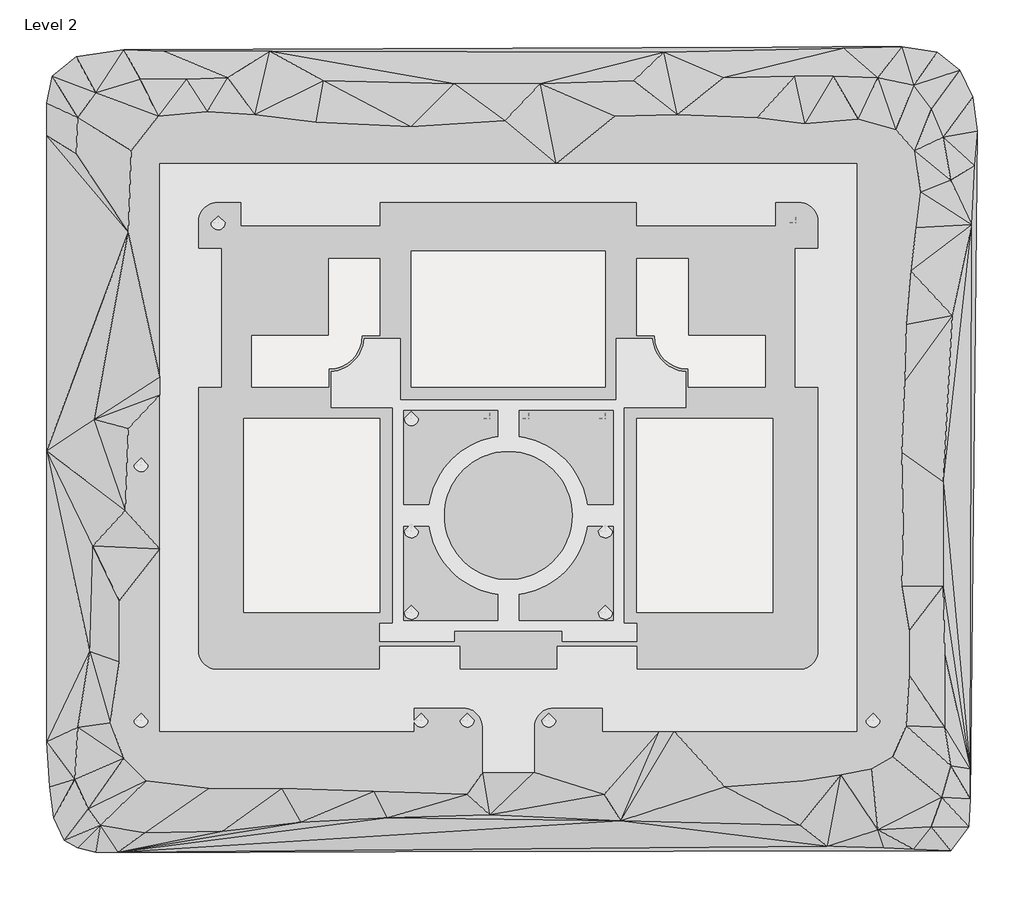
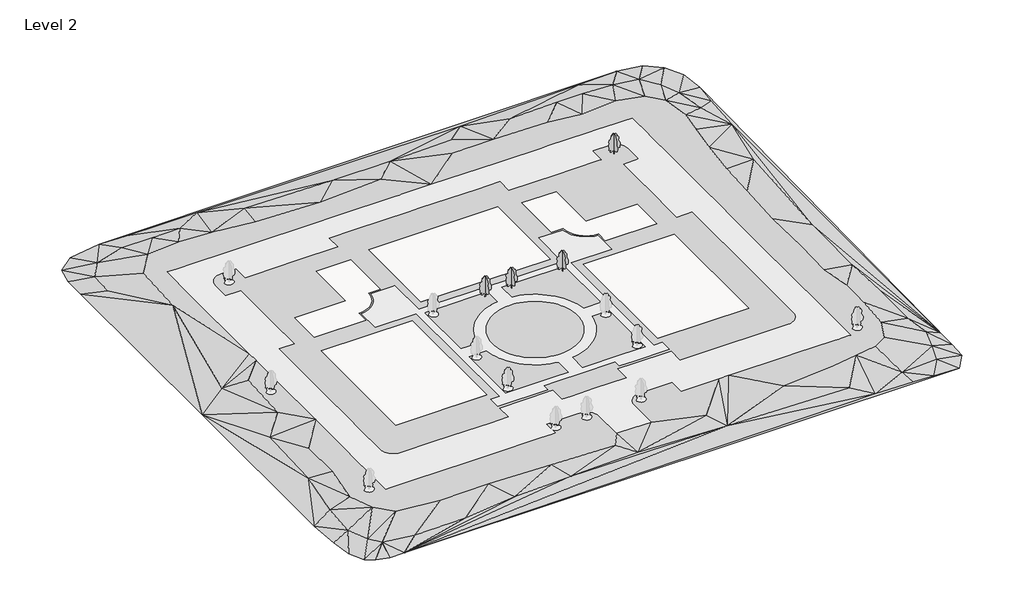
# One storey, part 2 of 2: 4 geographic elements, 1 proxy.
"""IFC4 building model written with IfcOpenShell, lengths in millimetres."""

from ifc_helpers import new_model, si_unit, origin, place, context, project, spatial, triangles, transform, mapped, element, save
from components import rpc_tree_deciduous_red_ash_25_14781bec

model = new_model("IFC4")

# Units and contexts
model_context = context("Model", 3, world=origin())
ifc_project = project(units=[si_unit("LENGTHUNIT", "METRE", prefix="MILLI")], contexts=[model_context])

# Site, building, storey
site = spatial("IfcSite", under=ifc_project)
building = spatial("IfcBuilding", under=site)
storey = spatial("IfcBuildingStorey", under=building, Name="Level 2", Elevation=3047.9999999)

# Proxy
placement = place(None, origin())
element("IfcBuildingElementProxy", 1, Name="Building Element Proxy", at=placement, inside=storey, context=model_context, shape_type="Tessellation", body=[
    triangles([(-199970.6219238, -770.6450392, 0.0), (-199970.6219238, -75600.9481934, 0.0), (-199970.6219238, -144783.6834961, 0.0), (-199264.6743164, -155372.8790039, 0.0), (-198205.762207, -162785.3195801, 0.0), (-195734.9362793, -168079.917334, 0.0), (-192558.1813477, -169844.7770508, 0.0), (-188322.5143066, -170903.6891602, 0.0), (-183027.9165527, -170903.6891602, 0.0), (14637.0472687, -170550.7246582, 0.0), (18872.7247742, -164903.1624023, 0.0), (19225.6974152, -158196.6694336, 0.0), (20990.5629456, 288.2743554, 0.0), (19931.6438599, 8406.6566345, 0.0), (16754.8854401, 14760.1734741, 0.0), (11460.2888489, 18995.8509796, 0.0), (2988.9332565, 20407.7427063, 0.0), (-181616.0213379, 19701.7974243, 0.0), (-192911.1644531, 17936.9307312, 0.0), (-198558.726709, 13348.2805847, 0.0), (-199970.6219238, 6994.7637451, 0.0), (-96458.3541504, -141259.5265137, 3048.0), (-96504.8908447, -140608.8592529, 3048.0), (-96643.5521484, -139971.4376953, 3048.0), (-96871.5196289, -139360.2470947, 3048.0), (-97184.1424072, -138787.7145996, 3048.0), (-97575.0673828, -138265.4953125, 3048.0), (-98036.332251, -137804.2304443, 3048.0), (-98558.5515381, -137413.3147705, 3048.0), (-98978.0329102, -137184.2496826, 3048.0), (-99131.0840332, -137100.6826904, 3048.0), (-99742.2746338, -136872.7245117, 3048.0), (-100379.6961914, -136734.0539063, 3048.0), (-101030.3541504, -136687.5265137, 3048.0), (-101809.9809814, -136687.5265137, 3048.0), (-112765.1541504, -136687.5265137, 3048.0), (-112765.1541504, -142173.9265137, 3048.0), (-113948.1331055, -142173.9265137, 3048.0), (-118098.4844238, -142173.9265137, 3048.0), (-134914.7603027, -142173.9265137, 3048.0), (-141364.1619873, -142173.9265137, 3048.0), (-155924.3616211, -142173.9265137, 3048.0), (-161579.2164551, -142173.9265137, 3048.0), (-171062.6189941, -142173.9265137, 3048.0), (-173115.5541504, -142173.9265137, 3048.0), (-173115.5541504, -139265.5924072, 3048.0), (-173115.5541504, -133177.6942383, 3048.0), (-173115.5541504, -122301.5302002, 3048.0), (-173115.5541504, -118406.8004883, 3048.0), (-173115.5541504, -98940.6863525, 3048.0), (-173115.5541504, -96485.831543, 3048.0), (-173115.5541504, -78335.3859375, 3048.0), (-173115.5541504, -62355.6543457, 3048.0), (-173115.5541504, -58140.023291, 3048.0), (-173115.5541504, -19343.470459, 3048.0), (-173115.5541504, -16797.6432953, 3048.0), (-173115.5541504, -12340.9792786, 3048.0), (-173115.5541504, -7452.3218628, 3048.0), (-169916.8098633, -7452.3218628, 3048.0), (-163060.4655762, -7452.3218628, 3048.0), (-152868.4644287, -7452.3218628, 3048.0), (-142112.3953857, -7452.3218628, 3048.0), (-121728.1977539, -7452.3218628, 3048.0), (-112747.4808105, -7452.3218628, 3048.0), (-91818.4420166, -7452.3218628, 3048.0), (-90362.3541504, -7452.3218628, 3048.0), (-89744.5965088, -7452.3218628, 3048.0), (-79028.6831543, -7452.3218628, 3048.0), (-55510.2210205, -7452.3218628, 3048.0), (-52788.1732178, -7452.3218628, 3048.0), (-40375.0099731, -7452.3218628, 3048.0), (-37615.0575073, -7452.3218628, 3048.0), (-23395.2487244, -7452.3218628, 3048.0), (-20332.1054626, -7452.3218628, 3048.0), (-13137.2725342, -7452.3218628, 3048.0), (-9769.8966797, -7452.3218628, 3048.0), (-7609.1582199, -7452.3218628, 3048.0), (-7609.1582199, -9469.011557, 3048.0), (-7609.1582199, -15160.5374084, 3048.0), (-7609.1582199, -20175.2708496, 3048.0), (-7609.1582199, -29394.9894836, 3048.0), (-7609.1582199, -34925.2565735, 3048.0), (-7609.1582199, -45786.2285156, 3048.0), (-7609.1582199, -48692.6557617, 3048.0), (-7609.1582199, -63543.7213623, 3048.0), (-7609.1582199, -67102.3320557, 3048.0), (-7609.1582199, -88141.7269043, 3048.0), (-7609.1582199, -103111.0178467, 3048.0), (-7609.1582199, -109311.1696289, 3048.0), (-7609.1582199, -119744.5513916, 3048.0), (-7609.1582199, -128757.108252, 3048.0), (-7609.1582199, -135897.4445068, 3048.0), (-7609.1582199, -141262.8472412, 3048.0), (-7609.1582199, -142173.9265137, 3048.0), (-8520.228772, -142173.9265137, 3048.0), (-12021.3371613, -142173.9265137, 3048.0), (-14368.7717834, -142173.9265137, 3048.0), (-27380.2333923, -142173.9265137, 3048.0), (-30015.5818359, -142173.9265137, 3048.0), (-50988.4086548, -142173.9265137, 3048.0), (-54593.6723145, -142173.9265137, 3048.0), (-67959.5588013, -142173.9265137, 3048.0), (-67959.5588013, -136687.5265137, 3048.0), (-70630.3399658, -136687.5265137, 3048.0), (-79694.3541504, -136687.5265137, 3048.0), (-80345.0214111, -136734.0539063, 3048.0), (-80982.4429688, -136872.7245117, 3048.0), (-81593.6335693, -137100.6826904, 3048.0), (-82166.1660645, -137413.3147705, 3048.0), (-82688.3853516, -137804.2304443, 3048.0), (-83149.640918, -138265.4953125, 3048.0), (-83540.5658936, -138787.7145996, 3048.0), (-83853.1979736, -139360.2470947, 3048.0), (-84081.1561523, -139971.4376953, 3048.0), (-84219.8174561, -140608.8592529, 3048.0), (-84266.3541504, -141259.5265137, 3048.0), (-84266.3541504, -151927.5265137, 3048.0), (-90362.3541504, -151927.5265137, 3048.0), (-96458.3541504, -151927.5265137, 3048.0), (-153151.1541504, -67955.1218628, 3048.0), (-153151.1541504, -99875.92229, 3048.0), (-153151.1541504, -113064.9684082, 3048.0), (-153151.1541504, -113979.9265137, 3048.0), (-152049.379541, -113979.9265137, 3048.0), (-140079.1613525, -113979.9265137, 3048.0), (-120842.3541504, -113979.9265137, 3048.0), (-120842.3541504, -67955.1218628, 3048.0), (-67349.9588013, -28178.7218628, 3048.0), (-86679.0999023, -28178.7218628, 3048.0), (-92962.2791748, -28178.7218628, 3048.0), (-110993.3460205, -28178.7218628, 3048.0), (-113374.7541504, -28178.7218628, 3048.0), (-113374.7541504, -60487.5218628, 3048.0), (-108258.9733887, -60487.5218628, 3048.0), (-94745.3238281, -60487.5218628, 3048.0), (-81900.5357666, -60487.5218628, 3048.0), (-67349.9588013, -60487.5218628, 3048.0), (-27573.5588013, -113979.9265137, 3048.0), (-27573.5588013, -111100.790625, 3048.0), (-27573.5588013, -67955.1218628, 3048.0), (-59882.3588013, -67955.1218628, 3048.0), (-59882.3588013, -113979.9265137, 3048.0), (-30077.1524963, -113979.9265137, 3048.0), (-120842.3541504, -30007.5218628, 3048.0), (-133034.3541504, -30007.5218628, 3048.0), (-133034.3541504, -48295.5218628, 3048.0), (-151322.3541504, -48295.5218628, 3048.0), (-151322.3541504, -60487.5218628, 3048.0), (-133034.3541504, -60487.5218628, 3048.0), (-133034.3541504, -56220.3218628, 3048.0), (-132147.0594727, -56170.4923462, 3048.0), (-131270.9269043, -56021.631665, 3048.0), (-130416.9604248, -55775.6094727, 3048.0), (-129595.9128662, -55435.5186035, 3048.0), (-128818.1091797, -55005.6425171, 3048.0), (-128093.3255127, -54491.3808838, 3048.0), (-127430.6775879, -53899.2030762, 3048.0), (-126838.4997803, -53236.5551514, 3048.0), (-126324.2334961, -52511.7714844, 3048.0), (-125894.3620605, -51733.963147, 3048.0), (-125554.2711914, -50912.9155884, 3048.0), (-125308.248999, -50058.9537598, 3048.0), (-125159.383667, -49182.8165405, 3048.0), (-125109.5541504, -48295.5218628, 3048.0), (-120842.3541504, -48295.5218628, 3048.0), (-59882.3588013, -30007.5218628, 3048.0), (-59882.3588013, -48295.5218628, 3048.0), (-55615.1588013, -48295.5218628, 3048.0), (-55565.3292847, -49182.8165405, 3048.0), (-55416.4686035, -50058.9537598, 3048.0), (-55170.4464111, -50912.9155884, 3048.0), (-54830.355542, -51733.963147, 3048.0), (-54400.4794556, -52511.7714844, 3048.0), (-53886.2178223, -53236.5551514, 3048.0), (-53294.0400146, -53899.2030762, 3048.0), (-52631.3920898, -54491.3808838, 3048.0), (-51906.603772, -55005.6425171, 3048.0), (-51128.8000854, -55435.5186035, 3048.0), (-50307.7525269, -55775.6094727, 3048.0), (-49453.7906982, -56021.631665, 3048.0), (-48577.653479, -56170.4923462, 3048.0), (-47690.3588013, -56220.3218628, 3048.0), (-47690.3588013, -60487.5218628, 3048.0), (-29402.3588013, -60487.5218628, 3048.0), (-29402.3588013, -48900.5221436, 3048.0), (-29402.3588013, -48295.5218628, 3048.0), (-30126.7308655, -48295.5218628, 3048.0), (-47690.3588013, -48295.5218628, 3048.0), (-47690.3588013, -33626.2753967, 3048.0), (-47690.3588013, -30007.5218628, 3048.0), (-52023.1268921, -30007.5218628, 3048.0), (-120842.3541504, -16596.3218628, 3048.0), (-120842.3541504, -22082.7218628, 3048.0), (-135421.6781982, -22082.7218628, 3048.0), (-151061.086377, -22082.7218628, 3048.0), (-153760.7541504, -22082.7218628, 3048.0), (-153760.7541504, -16596.3218628, 3048.0), (-159399.5541504, -16596.3218628, 3048.0), (-160050.2307129, -16642.8585571, 3048.0), (-160687.6429688, -16781.5198608, 3048.0), (-161298.8428711, -17009.4838531, 3048.0), (-161871.3660645, -17322.1112823, 3048.0), (-162393.5853516, -17713.0350952, 3048.0), (-162854.840918, -18174.2988007, 3048.0), (-163245.7751953, -18696.5122742, 3048.0), (-163558.3886719, -19269.0447693, 3048.0), (-163786.3561523, -19880.2400208, 3048.0), (-163925.0267578, -20517.6592529, 3048.0), (-163971.5541504, -21168.3218628, 3048.0), (-163971.5541504, -27569.1218628, 3048.0), (-158485.1541504, -27569.1218628, 3048.0), (-158485.1541504, -34220.483313, 3048.0), (-158485.1541504, -46724.2270752, 3048.0), (-158485.1541504, -60487.5218628, 3048.0), (-163971.5541504, -60487.5218628, 3048.0), (-163971.5541504, -88201.2767578, 3048.0), (-163971.5541504, -104079.330835, 3048.0), (-163971.5541504, -109289.2825928, 3048.0), (-163971.5541504, -122971.5265137, 3048.0), (-163925.0267578, -123622.1844727, 3048.0), (-163786.3561523, -124259.6060303, 3048.0), (-163558.3886719, -124870.7966309, 3048.0), (-163245.7751953, -125443.329126, 3048.0), (-162854.840918, -125965.5484131, 3048.0), (-162393.5853516, -126426.8132813, 3048.0), (-161871.3660645, -126817.7289551, 3048.0), (-161298.8428711, -127130.3610352, 3048.0), (-160687.6429688, -127358.3192139, 3048.0), (-160050.2307129, -127496.9898193, 3048.0), (-159399.5541504, -127543.5265137, 3048.0), (-147842.1479736, -127543.5265137, 3048.0), (-135716.2462646, -127543.5265137, 3048.0), (-127508.0124023, -127543.5265137, 3048.0), (-120842.3541504, -127543.5265137, 3048.0), (-120842.3541504, -122057.1265137, 3048.0), (-103048.1844727, -122057.1265137, 3048.0), (-101944.7541504, -122057.1265137, 3048.0), (-101944.7541504, -127543.5265137, 3048.0), (-98445.9909668, -127543.5265137, 3048.0), (-90362.3541504, -127543.5265137, 3048.0), (-78779.9541504, -127543.5265137, 3048.0), (-78779.9541504, -122057.1265137, 3048.0), (-72794.2171875, -122057.1265137, 3048.0), (-59882.3588013, -122057.1265137, 3048.0), (-59882.3588013, -127543.5265137, 3048.0), (-41871.5883911, -127543.5265137, 3048.0), (-34741.3910522, -127543.5265137, 3048.0), (-21325.1588013, -127543.5265137, 3048.0), (-20674.493866, -127496.9898193, 3048.0), (-20037.0769592, -127358.3192139, 3048.0), (-19872.0754028, -127296.7787842, 3048.0), (-19425.880545, -127130.3610352, 3048.0), (-18853.3480499, -126817.7289551, 3048.0), (-18331.1345764, -126426.8132813, 3048.0), (-17869.870871, -125965.5484131, 3048.0), (-17478.9470581, -125443.329126, 3048.0), (-17166.3207916, -124870.7966309, 3048.0), (-16938.3556366, -124259.6060303, 3048.0), (-16799.6943329, -123622.1844727, 3048.0), (-16753.1576385, -122971.5265137, 3048.0), (-16753.1576385, -122722.3696289, 3048.0), (-16753.1576385, -111345.1664063, 3048.0), (-16753.1576385, -98657.3269043, 3048.0), (-16753.1576385, -60487.5218628, 3048.0), (-22239.5588013, -60487.5218628, 3048.0), (-22239.5588013, -54882.9383789, 3048.0), (-22239.5588013, -46411.753125, 3048.0), (-22239.5588013, -35337.7267456, 3048.0), (-22239.5588013, -28669.615155, 3048.0), (-22239.5588013, -27569.1218628, 3048.0), (-16753.1576385, -27569.1218628, 3048.0), (-16753.1576385, -26553.1513184, 3048.0), (-16753.1576385, -21168.3218628, 3048.0), (-16799.6943329, -20517.6592529, 3048.0), (-16938.3556366, -19880.2400208, 3048.0), (-17166.3207916, -19269.0447693, 3048.0), (-17478.9470581, -18696.5122742, 3048.0), (-17869.870871, -18174.2988007, 3048.0), (-18331.1345764, -17713.0350952, 3048.0), (-18853.3480499, -17322.1112823, 3048.0), (-19425.880545, -17009.4838531, 3048.0), (-20037.0769592, -16781.5198608, 3048.0), (-20674.493866, -16642.8585571, 3048.0), (-21325.1588013, -16596.3218628, 3048.0), (-26963.9588013, -16596.3218628, 3048.0), (-26963.9588013, -17204.3033569, 3048.0), (-26963.9588013, -22082.7218628, 3048.0), (-27869.6965393, -22082.7218628, 3048.0), (-36760.488739, -22082.7218628, 3048.0), (-43016.1185303, -22082.7218628, 3048.0), (-59882.3588013, -22082.7218628, 3048.0), (-59882.3588013, -16596.3218628, 3048.0), (-68080.4816528, -16596.3218628, 3048.0), (-88392.1767334, -16596.3218628, 3048.0), (-92323.0716797, -16596.3218628, 3048.0), (-111973.5931641, -16596.3218628, 3048.0), (-115965.5541504, -63535.5218628, 3048.0), (-108001.017041, -63535.5218628, 3048.0), (-94913.5368164, -63535.5218628, 3048.0), (-81449.735376, -63535.5218628, 3048.0), (-64759.1588013, -63535.5218628, 3048.0), (-64759.1588013, -48905.1218628, 3048.0), (-56202.9601318, -48905.1218628, 3048.0), (-56096.6642944, -49768.622644, 3048.0), (-55903.0063477, -50616.8173828, 3048.0), (-55624.0001221, -51440.8880127, 3048.0), (-55262.5431152, -52232.2676147, 3048.0), (-54822.3978882, -52982.7380859, 3048.0), (-54308.131604, -53684.4999023, 3048.0), (-53725.0881226, -54330.255835, 3048.0), (-53079.3368408, -54913.2946655, 3048.0), (-52377.5750244, -55427.5609497, 3048.0), (-51627.1045532, -55867.7061768, 3048.0), (-50835.7249512, -56229.1631836, 3048.0), (-50011.6543213, -56508.1694092, 3048.0), (-49163.4595825, -56701.827356, 3048.0), (-48299.9588013, -56808.1231934, 3048.0), (-48299.9588013, -65364.3218628, 3048.0), (-62930.3588013, -65364.3218628, 3048.0), (-62930.3588013, -116570.7265137, 3048.0), (-59882.3588013, -116570.7265137, 3048.0), (-59882.3588013, -120837.9265137, 3048.0), (-72974.5410645, -120837.9265137, 3048.0), (-77560.7588013, -120837.9265137, 3048.0), (-77560.7588013, -118399.5265137, 3048.0), (-90362.3541504, -118399.5265137, 3048.0), (-97941.352002, -118399.5265137, 3048.0), (-103163.9541504, -118399.5265137, 3048.0), (-103163.9541504, -120689.163501, 3048.0), (-103163.9541504, -120837.9265137, 3048.0), (-120842.3541504, -120837.9265137, 3048.0), (-120842.3541504, -116570.7265137, 3048.0), (-117794.3541504, -116570.7265137, 3048.0), (-117794.3541504, -65364.3218628, 3048.0), (-132424.7541504, -65364.3218628, 3048.0), (-132424.7541504, -56808.1231934, 3048.0), (-131561.2533691, -56701.827356, 3048.0), (-130713.0632813, -56508.1694092, 3048.0), (-129888.9926514, -56229.1631836, 3048.0), (-129097.6083984, -55867.7061768, 3048.0), (-128347.1425781, -55427.5609497, 3048.0), (-127645.3807617, -54913.2946655, 3048.0), (-126999.6248291, -54330.255835, 3048.0), (-126416.5813477, -53684.4999023, 3048.0), (-125902.3150635, -52982.7380859, 3048.0), (-125462.1744873, -52232.2676147, 3048.0), (-125100.7174805, -51440.8880127, 3048.0), (-124821.7112549, -50616.8173828, 3048.0), (-124628.057959, -49768.622644, 3048.0), (-124521.7574707, -48905.1218628, 3048.0), (-115965.5541504, -48905.1218628, 3048.0), (-92800.7541504, -65973.9218628, 3048.0), (-95048.1053467, -65973.9218628, 3048.0), (-107794.6482422, -65973.9218628, 3048.0), (-115355.9541504, -65973.9218628, 3048.0), (-115355.9541504, -88529.1265137, 3048.0), (-109101.9823975, -88529.1265137, 3048.0), (-108874.6474365, -87170.8838379, 3048.0), (-108549.0021973, -85832.807373, 3048.0), (-108126.7768066, -84522.0036621, 3048.0), (-107610.2129883, -83245.4211182, 3048.0), (-107002.0547607, -82009.8500244, 3048.0), (-106508.6988281, -81168.3851074, 3048.0), (-106305.529834, -80821.8574219, 3048.0), (-105524.3403076, -79687.7312988, 3048.0), (-104662.6254639, -78613.5177979, 3048.0), (-103724.9803711, -77604.900293, 3048.0), (-102716.3628662, -76667.2505493, 3048.0), (-101642.1493652, -75805.5403564, 3048.0), (-100508.0232422, -75024.3508301, 3048.0), (-99320.0213379, -74327.8259033, 3048.0), (-98084.4595459, -73719.6676758, 3048.0), (-96807.877002, -73203.1038574, 3048.0), (-95497.073291, -72780.8784668, 3048.0), (-95422.7708496, -72762.7958496, 3048.0), (-94158.9968262, -72455.2332275, 3048.0), (-92800.7541504, -72227.8982666, 3048.0), (-92800.7541504, -115961.1265137, 3048.0), (-92800.7541504, -109707.145459, 3048.0), (-94158.9968262, -109479.810498, 3048.0), (-95497.073291, -109154.1652588, 3048.0), (-96807.877002, -108731.9398682, 3048.0), (-97394.7156006, -108494.475293, 3048.0), (-98084.4595459, -108215.3760498, 3048.0), (-99320.0213379, -107607.2178223, 3048.0), (-100508.0232422, -106910.6928955, 3048.0), (-101642.1493652, -106129.5033691, 3048.0), (-102716.3628662, -105267.7978271, 3048.0), (-103724.9803711, -104330.1434326, 3048.0), (-104630.9436768, -103355.6168701, 3048.0), (-104662.6254639, -103321.5259277, 3048.0), (-105524.3403076, -102247.3124268, 3048.0), (-106305.529834, -101113.1863037, 3048.0), (-107002.0547607, -99925.1937012, 3048.0), (-107610.2129883, -98689.6226074, 3048.0), (-108126.7768066, -97413.0400635, 3048.0), (-108549.0021973, -96102.2363525, 3048.0), (-108874.6474365, -94764.1598877, 3048.0), (-109101.9823975, -93405.9265137, 3048.0), (-115355.9541504, -93405.9265137, 3048.0), (-115355.9541504, -115961.1265137, 3048.0), (-103564.1064697, -115961.1265137, 3048.0), (-97806.7834717, -115961.1265137, 3048.0), (-105602.3541504, -90967.5265137, 3048.0), (-105552.9432129, -92193.8330566, 3048.0), (-105405.0080566, -93412.1865967, 3048.0), (-105159.5067627, -94614.6899414, 3048.0), (-104818.0578369, -95793.538916, 3048.0), (-104382.8471924, -96941.0967773, 3048.0), (-103856.7118652, -98049.9035156, 3048.0), (-103243.0562988, -99112.7781738, 3048.0), (-102545.8616455, -100122.8374512, 3048.0), (-101769.6578613, -101073.5143066, 3048.0), (-100919.4771973, -101958.6509766, 3048.0), (-100000.8262939, -102772.4989746, 3048.0), (-99019.6675781, -103509.7935059, 3048.0), (-97982.3541504, -104165.7534668, 3048.0), (-97179.0915527, -104587.3370361, 3048.0), (-96895.6297852, -104736.1093506, 3048.0), (-95766.5359131, -105217.1683594, 3048.0), (-94602.3930176, -105605.8144043, 3048.0), (-93410.754126, -105899.5360107, 3048.0), (-92199.3396973, -106096.4077148, 3048.0), (-90976.0097168, -106195.1644775, 3048.0), (-89748.7078857, -106195.1644775, 3048.0), (-88525.3779053, -106096.4077148, 3048.0), (-87313.9634766, -105899.5360107, 3048.0), (-86122.324585, -105605.8144043, 3048.0), (-84958.1816895, -105217.1683594, 3048.0), (-83829.0878174, -104736.1093506, 3048.0), (-82742.3541504, -104165.7534668, 3048.0), (-81705.0500244, -103509.7935059, 3048.0), (-80723.8913086, -102772.4989746, 3048.0), (-79805.2404053, -101958.6509766, 3048.0), (-78955.0504395, -101073.5143066, 3048.0), (-78178.8466553, -100122.8374512, 3048.0), (-77481.6613037, -99112.7781738, 3048.0), (-76868.0103882, -98049.9035156, 3048.0), (-76469.2486816, -97209.5362061, 3048.0), (-76341.8704102, -96941.0967773, 3048.0), (-75906.6644165, -95793.538916, 3048.0), (-75565.206189, -94614.6899414, 3048.0), (-75319.7141968, -93412.1865967, 3048.0), (-75171.7743896, -92193.8330566, 3048.0), (-75122.3588013, -90967.5265137, 3048.0), (-75171.7743896, -89741.2106689, 3048.0), (-75319.7141968, -88522.8571289, 3048.0), (-75565.206189, -87320.3537842, 3048.0), (-75906.6644165, -86141.5048096, 3048.0), (-76341.8704102, -84993.9469482, 3048.0), (-76868.0103882, -83885.14021, 3048.0), (-77481.6613037, -82822.2655518, 3048.0), (-78178.8466553, -81812.2062744, 3048.0), (-78872.1438721, -80963.076709, 3048.0), (-78955.0504395, -80861.5294189, 3048.0), (-79805.2404053, -79976.392749, 3048.0), (-80723.8913086, -79162.544751, 3048.0), (-81705.0500244, -78425.2502197, 3048.0), (-82742.3541504, -77769.2949097, 3048.0), (-83829.0878174, -77198.9390259, 3048.0), (-84958.1816895, -76717.8753662, 3048.0), (-86122.324585, -76329.2246704, 3048.0), (-87313.9634766, -76035.5123657, 3048.0), (-88525.3779053, -75838.6406616, 3048.0), (-89748.7078857, -75739.879248, 3048.0), (-90976.0097168, -75739.879248, 3048.0), (-92199.3396973, -75838.6406616, 3048.0), (-93410.754126, -76035.5123657, 3048.0), (-94602.3930176, -76329.2246704, 3048.0), (-95638.683252, -76675.1895996, 3048.0), (-95766.5359131, -76717.8753662, 3048.0), (-96895.6297852, -77198.9390259, 3048.0), (-97982.3541504, -77769.2949097, 3048.0), (-99019.6675781, -78425.2502197, 3048.0), (-100000.8262939, -79162.544751, 3048.0), (-100919.4771973, -79976.392749, 3048.0), (-101769.6578613, -80861.5294189, 3048.0), (-102545.8616455, -81812.2062744, 3048.0), (-103243.0562988, -82822.2655518, 3048.0), (-103856.7118652, -83885.14021, 3048.0), (-104382.8471924, -84993.9469482, 3048.0), (-104818.0578369, -86141.5048096, 3048.0), (-105159.5067627, -87320.3537842, 3048.0), (-105405.0080566, -88522.8571289, 3048.0), (-105552.9432129, -89741.2106689, 3048.0), (-87923.9541504, -65973.9218628, 3048.0), (-87923.9541504, -72227.8982666, 3048.0), (-86565.7207764, -72455.2332275, 3048.0), (-85227.6443115, -72780.8784668, 3048.0), (-83916.8406006, -73203.1038574, 3048.0), (-82640.2580566, -73719.6676758, 3048.0), (-81404.6869629, -74327.8259033, 3048.0), (-80216.6943604, -75024.3508301, 3048.0), (-79697.6190674, -75381.8917969, 3048.0), (-79082.5682373, -75805.5403564, 3048.0), (-78008.3500854, -76667.2505493, 3048.0), (-76999.7372314, -77604.900293, 3048.0), (-76062.0874878, -78613.5177979, 3048.0), (-75200.3772949, -79687.7312988, 3048.0), (-74419.1877686, -80821.8574219, 3048.0), (-73722.6628418, -82009.8500244, 3048.0), (-73114.5046143, -83245.4211182, 3048.0), (-72597.9407959, -84522.0036621, 3048.0), (-72175.7154053, -85832.807373, 3048.0), (-71850.070166, -87170.8838379, 3048.0), (-71622.7352051, -88529.1265137, 3048.0), (-65368.7588013, -88529.1265137, 3048.0), (-65368.7588013, -65973.9218628, 3048.0), (-81089.0876221, -65973.9218628, 3048.0), (-87923.9541504, -115961.1265137, 3048.0), (-73695.8365723, -115961.1265137, 3048.0), (-65368.7588013, -115961.1265137, 3048.0), (-65368.7588013, -93405.9265137, 3048.0), (-71622.7352051, -93405.9265137, 3048.0), (-71850.070166, -94764.1598877, 3048.0), (-72175.7154053, -96102.2363525, 3048.0), (-72597.9407959, -97413.0400635, 3048.0), (-73114.5046143, -98689.6226074, 3048.0), (-73722.6628418, -99925.1937012, 3048.0), (-74419.1877686, -101113.1863037, 3048.0), (-75200.3772949, -102247.3124268, 3048.0), (-75642.6107666, -102798.599707, 3048.0), (-76062.0874878, -103321.5259277, 3048.0), (-76999.7372314, -104330.1434326, 3048.0), (-78008.3500854, -105267.7978271, 3048.0), (-79082.5682373, -106129.5033691, 3048.0), (-80216.6943604, -106910.6928955, 3048.0), (-81404.6869629, -107607.2178223, 3048.0), (-82640.2580566, -108215.3760498, 3048.0), (-83916.8406006, -108731.9398682, 3048.0), (-85227.6443115, -109154.1652588, 3048.0), (-86565.7207764, -109479.810498, 3048.0), (-87923.9541504, -109707.145459, 3048.0), (-172085.7379395, 19348.8236206, 0.0), (-147024.6536865, 19348.8236206, 0.0), (-53486.7677856, 18995.8509796, 0.0), (-10777.018927, 20054.771228, 0.0), (20284.6176636, -7830.1081055, 0.0), (19578.6700562, -21949.0323486, 0.0), (19225.6974152, -151137.2026611, 0.0), (5812.718454, -170197.7601563, 0.0), (-1246.744249, -169844.7770508, 0.0), (-14659.7237915, -169491.8125488, 0.0), (-192911.1644531, -5006.322908, 1524.0), (-192558.1813477, 3465.0326843, 1524.0), (-188322.5143066, 9465.5757202, 1524.0), (-177733.3187988, 12642.33414, 1524.0), (-166791.1401855, 12642.33414, 1524.0), (-156907.8922852, 12995.306781, 1524.0), (-134317.6153564, 12289.361499, 1524.0), (-103255.9857422, 11583.4150543, 1524.0), (-82783.542334, 11583.4150543, 1524.0), (-60546.2299072, 12289.361499, 1524.0), (-39367.8435425, 12995.306781, 1524.0), (-22425.1335205, 13348.2805847, 1524.0), (-13247.8309021, 13348.2805847, 1524.0), (-2658.6368477, 12995.306781, 1524.0), (5812.718454, 11230.4412506, 1524.0), (10048.3959595, 5582.8714371, 1524.0), (12872.1817383, -1123.6181889, 1524.0), (14637.0472687, -11359.8391663, 1524.0), (14990.0199097, -43480.3925171, 1524.0), (12872.1817383, -83013.3887695, 1524.0), (12872.1817383, -107721.5085205, 1524.0), (13225.1543793, -123958.2662842, 1524.0), (13225.1543793, -141253.9547607, 1524.0), (14637.0472687, -150431.2550537, 1524.0), (12519.2079346, -157843.6863281, 1524.0), (10048.3959595, -164903.1624023, 1524.0), (-2658.6368477, -165609.0914062, 1524.0), (-21013.2406311, -164550.1792969, 1524.0), (-63722.9894897, -163491.2671875, 1524.0), (-94784.6237549, -162079.3719727, 1524.0), (-119139.7697021, -162785.3195801, 1524.0), (-139612.2131104, -163844.2316895, 1524.0), (-158319.7875, -165962.0745117, 1524.0), (-176674.3880859, -166315.0390137, 1524.0), (-187263.5835937, -164550.1792969, 1524.0), (-190087.3740234, -160667.4767578, 1524.0), (-193264.1289551, -153608.0099854, 1524.0), (-192558.1813477, -141253.9547607, 1524.0), (-189734.390918, -123252.3279785, 1524.0), (-189028.4619141, -98191.2344238, 1524.0), (-188675.4788086, -68188.5122681, 1524.0), (-180557.090625, -23713.8990417, 3048.0), (-179851.1430176, -4300.3764633, 3048.0), (-173497.6331543, 3818.005616, 3048.0), (-161849.5255371, 4876.9249924, 3048.0), (-150554.3824219, 4170.9788383, 3048.0), (-136082.484375, 2406.1131626, 3048.0), (-113492.1981445, 1347.1937862, 3048.0), (-91254.8950195, 2759.0862396, 3048.0), (-65134.8800537, 3818.005616, 3048.0), (-50310.0082031, 4170.9788383, 3048.0), (-31249.4600098, 3465.0326843, 3048.0), (-19954.3215454, 2053.1400856, 3048.0), (-7247.2878662, 3112.059462, 3048.0), (1577.0408031, 641.2474869, 3048.0), (6165.6916763, -4300.3764633, 3048.0), (7577.5839844, -14183.6237823, 3048.0), (6518.6648987, -22654.9799561, 3048.0), (5106.7720093, -32891.2016602, 3048.0), (4047.8529236, -45598.2353394, 3048.0), (3694.8797012, -59011.2119751, 3048.0), (2988.9332565, -75953.9219971, 3048.0), (3341.9064789, -93249.6104736, 3048.0), (2988.9332565, -107721.5085205, 3048.0), (4753.7990776, -118310.7040283, 3048.0), (4753.7990776, -128899.8902344, 3048.0), (4047.8529236, -140900.980957, 3048.0), (871.0945765, -148313.4122314, 3048.0), (-4070.5294464, -151137.2026611, 3048.0), (-11482.9653717, -152549.097876, 3048.0), (-20307.2930237, -153960.9837891, 3048.0), (-39014.8697388, -155372.8790039, 3048.0), (-67605.6920288, -157137.7387207, 3048.0), (-100079.2215088, -157137.7387207, 3048.0), (-122316.5339355, -156431.7911133, 3048.0), (-144200.8632568, -155725.8528076, 3048.0), (-161496.5424316, -155725.8528076, 3048.0), (-176321.423584, -153960.9837891, 3048.0), (-181616.0213379, -148666.3860352, 3048.0), (-184792.7762695, -140195.0333496, 3048.0), (-182674.9334473, -125723.1353027, 3048.0), (-182674.9334473, -111251.2372559, 3048.0), (-181263.0382324, -89719.8724365, 3048.0), (-180557.090625, -70306.3550903, 3048.0)], [[5, 6, 579], [5, 580, 4], [578, 6, 7], [8, 9, 578], [621, 579, 578], [579, 6, 578], [577, 578, 9], [580, 5, 579], [9, 576, 577], [578, 7, 8], [577, 621, 578], [580, 622, 581], [580, 579, 622], [580, 581, 3], [581, 622, 623], [582, 581, 623], [3, 581, 582], [622, 45, 623], [580, 3, 4], [621, 44, 45], [620, 44, 621], [46, 47, 623], [623, 45, 46], [622, 621, 45], [579, 621, 622], [47, 624, 623], [621, 577, 620], [576, 575, 619], [576, 9, 575], [42, 620, 619], [619, 620, 576], [618, 40, 619], [41, 619, 40], [619, 575, 618], [576, 620, 577], [37, 618, 617], [574, 618, 575], [38, 39, 618], [37, 38, 618], [618, 574, 617], [618, 39, 40], [9, 574, 575], [43, 620, 42], [228, 229, 230], [231, 123, 230], [125, 232, 233], [231, 232, 125], [619, 41, 42], [235, 233, 234], [620, 43, 44], [574, 572, 573], [624, 625, 582], [221, 230, 220], [624, 582, 623], [225, 230, 224], [47, 48, 624], [223, 224, 230], [223, 230, 222], [230, 221, 222], [218, 219, 123], [625, 50, 583], [625, 49, 50], [50, 626, 583], [626, 50, 51], [583, 626, 2], [625, 583, 582], [49, 625, 624], [122, 217, 218], [121, 216, 217], [624, 48, 49], [51, 52, 626], [225, 226, 230], [3, 582, 2], [228, 230, 227], [219, 220, 230], [126, 125, 332], [356, 361, 362], [231, 124, 123], [231, 125, 124], [235, 330, 331], [332, 125, 233], [393, 394, 401], [333, 126, 332], [235, 236, 330], [233, 331, 332], [235, 331, 233], [219, 230, 123], [217, 122, 121], [333, 334, 126], [216, 121, 120], [218, 123, 122], [398, 399, 400], [357, 358, 356], [400, 397, 398], [394, 395, 400], [230, 226, 227], [359, 356, 358], [36, 37, 35], [2, 582, 583], [35, 22, 34], [22, 30, 34], [33, 34, 30], [30, 32, 33], [31, 32, 30], [237, 239, 327], [29, 30, 28], [119, 22, 37], [329, 330, 237], [329, 327, 328], [384, 402, 403], [237, 330, 236], [389, 401, 402], [238, 239, 237], [386, 402, 385], [385, 402, 384], [327, 329, 237], [402, 386, 387], [24, 25, 30], [30, 26, 27], [26, 30, 25], [27, 28, 30], [573, 118, 119], [118, 573, 117], [30, 23, 24], [22, 23, 30], [573, 119, 617], [37, 22, 35], [381, 403, 380], [382, 383, 403], [381, 382, 403], [403, 383, 384], [380, 378, 379], [378, 380, 403], [326, 327, 240], [239, 240, 327], [242, 326, 240], [617, 574, 573], [397, 400, 396], [396, 400, 395], [391, 401, 390], [393, 401, 392], [407, 408, 418], [392, 401, 391], [401, 394, 400], [484, 485, 418], [418, 483, 484], [404, 418, 485], [418, 405, 406], [483, 470, 482], [481, 482, 470], [418, 406, 407], [418, 404, 405], [360, 356, 359], [387, 388, 402], [418, 419, 420], [418, 420, 421], [425, 418, 424], [424, 418, 423], [418, 422, 423], [418, 421, 422], [470, 483, 418], [410, 411, 418], [411, 412, 418], [413, 418, 412], [418, 416, 417], [415, 418, 414], [416, 418, 415], [418, 413, 414], [410, 418, 409], [408, 409, 418], [388, 389, 402], [401, 389, 390], [418, 439, 470], [37, 617, 119], [574, 9, 572], [627, 584, 626], [627, 626, 52], [584, 627, 53], [584, 2, 626], [52, 53, 627], [2, 584, 585], [120, 214, 215], [214, 120, 148], [214, 148, 147], [120, 335, 148], [584, 53, 54], [585, 54, 55], [211, 209, 210], [54, 585, 584], [195, 212, 145], [147, 212, 213], [211, 195, 196], [195, 211, 212], [209, 196, 198], [211, 196, 209], [145, 212, 147], [214, 147, 213], [2, 585, 1], [336, 149, 335], [335, 149, 148], [150, 336, 151], [336, 150, 149], [337, 151, 336], [337, 338, 152], [339, 153, 338], [338, 153, 152], [154, 339, 340], [337, 152, 151], [153, 339, 154], [195, 145, 194], [147, 146, 145], [155, 341, 156], [155, 154, 340], [156, 342, 157], [342, 156, 341], [157, 342, 343], [341, 155, 340], [145, 193, 194], [334, 335, 127], [216, 120, 215], [544, 585, 586], [544, 1, 585], [545, 544, 586], [544, 545, 1], [57, 585, 56], [585, 55, 56], [586, 58, 587], [58, 586, 57], [587, 59, 588], [586, 585, 57], [587, 58, 59], [21, 545, 20], [545, 21, 1], [20, 546, 19], [546, 20, 545], [19, 546, 18], [586, 546, 545], [547, 587, 548], [547, 18, 546], [547, 534, 18], [534, 547, 548], [534, 548, 549], [18, 534, 535], [548, 587, 588], [547, 546, 587], [586, 587, 546], [198, 205, 206], [204, 198, 203], [205, 198, 204], [206, 207, 198], [201, 202, 198], [200, 198, 199], [198, 200, 201], [202, 203, 198], [208, 198, 207], [549, 588, 589], [61, 588, 60], [589, 588, 61], [588, 549, 548], [60, 588, 59], [62, 590, 589], [63, 590, 62], [589, 550, 535], [550, 589, 590], [535, 550, 551], [589, 535, 549], [550, 590, 591], [62, 589, 61], [549, 535, 534], [209, 198, 208], [196, 197, 198], [18, 535, 17], [363, 355, 362], [355, 356, 362], [363, 364, 355], [478, 479, 470], [470, 477, 478], [477, 470, 476], [365, 366, 355], [355, 366, 354], [334, 127, 126], [366, 367, 354], [355, 364, 365], [369, 370, 354], [368, 369, 354], [367, 368, 354], [354, 370, 371], [480, 470, 479], [127, 335, 120], [473, 474, 470], [473, 470, 472], [471, 472, 470], [475, 470, 474], [469, 470, 468], [470, 467, 468], [466, 467, 470], [466, 470, 465], [475, 476, 470], [481, 470, 480], [372, 353, 354], [374, 375, 353], [373, 374, 353], [372, 373, 353], [353, 377, 352], [377, 353, 376], [376, 353, 375], [372, 354, 371], [470, 464, 465], [344, 158, 157], [158, 345, 159], [345, 158, 344], [159, 345, 346], [160, 346, 347], [346, 160, 159], [161, 347, 348], [347, 161, 160], [161, 348, 162], [351, 165, 350], [162, 349, 163], [162, 348, 349], [163, 350, 164], [350, 163, 349], [164, 350, 165], [145, 144, 193], [144, 165, 351], [192, 193, 296], [144, 132, 193], [157, 343, 344], [297, 133, 351], [351, 133, 132], [193, 132, 296], [132, 144, 351], [298, 299, 135], [298, 133, 297], [135, 134, 298], [298, 134, 133], [132, 131, 296], [295, 131, 130], [551, 591, 592], [63, 64, 591], [64, 65, 591], [591, 551, 550], [296, 131, 295], [65, 592, 591], [592, 66, 67], [66, 592, 65], [592, 67, 68], [551, 592, 552], [130, 294, 295], [63, 591, 590], [356, 360, 361], [535, 551, 536], [426, 418, 425], [109, 114, 115], [108, 115, 116], [113, 114, 110], [113, 111, 112], [111, 113, 110], [110, 114, 109], [105, 116, 102], [532, 533, 510], [428, 418, 427], [429, 418, 428], [530, 531, 510], [430, 439, 429], [418, 429, 439], [532, 510, 531], [431, 439, 430], [240, 241, 242], [109, 115, 108], [107, 108, 116], [116, 106, 107], [116, 105, 106], [243, 324, 242], [324, 243, 323], [242, 324, 325], [523, 511, 512], [326, 242, 325], [511, 529, 530], [526, 527, 511], [528, 511, 527], [511, 525, 526], [524, 525, 511], [523, 524, 511], [523, 512, 522], [529, 511, 528], [511, 530, 510], [102, 116, 117], [432, 439, 431], [439, 433, 434], [434, 435, 439], [436, 439, 435], [470, 439, 454], [438, 439, 437], [439, 436, 437], [441, 439, 440], [452, 453, 454], [454, 456, 457], [456, 454, 455], [470, 454, 462], [441, 442, 439], [449, 450, 454], [451, 452, 454], [454, 450, 451], [448, 449, 454], [454, 439, 448], [432, 433, 439], [445, 439, 444], [439, 443, 444], [445, 446, 439], [513, 517, 518], [513, 516, 517], [519, 512, 513], [520, 521, 512], [448, 439, 447], [508, 499, 500], [439, 446, 447], [504, 505, 507], [502, 503, 507], [504, 507, 503], [508, 501, 507], [439, 442, 443], [521, 522, 512], [323, 243, 322], [458, 454, 457], [572, 571, 615], [571, 572, 543], [615, 100, 572], [572, 101, 616], [571, 614, 615], [616, 117, 573], [571, 613, 614], [613, 571, 543], [97, 613, 96], [613, 97, 614], [96, 613, 95], [543, 570, 613], [615, 614, 99], [572, 9, 543], [97, 98, 614], [100, 101, 572], [104, 102, 103], [104, 105, 102], [101, 102, 616], [98, 99, 614], [143, 246, 247], [138, 247, 248], [100, 615, 99], [102, 117, 616], [542, 541, 570], [541, 542, 543], [568, 612, 570], [612, 95, 613], [569, 570, 541], [568, 570, 569], [541, 10, 569], [542, 570, 543], [11, 568, 569], [567, 568, 12], [12, 568, 11], [540, 12, 13], [612, 568, 611], [11, 569, 10], [543, 9, 541], [540, 567, 12], [95, 612, 94], [609, 91, 92], [93, 610, 92], [93, 94, 610], [611, 567, 610], [567, 611, 568], [610, 566, 609], [566, 610, 567], [609, 566, 565], [609, 92, 610], [567, 540, 566], [610, 94, 611], [612, 611, 94], [540, 565, 566], [612, 613, 570], [9, 10, 541], [90, 91, 609], [246, 322, 244], [244, 322, 243], [246, 321, 322], [320, 321, 142], [244, 245, 246], [249, 250, 251], [251, 252, 253], [251, 260, 248], [143, 142, 246], [249, 251, 248], [138, 248, 261], [515, 513, 514], [515, 516, 513], [141, 319, 320], [142, 321, 246], [247, 138, 143], [320, 142, 141], [139, 138, 262], [512, 519, 520], [253, 254, 251], [255, 256, 251], [257, 258, 251], [251, 256, 257], [258, 259, 251], [260, 261, 248], [608, 90, 609], [251, 259, 260], [261, 262, 138], [606, 87, 88], [140, 139, 263], [88, 89, 607], [263, 139, 262], [608, 564, 607], [564, 608, 565], [564, 606, 607], [606, 564, 563], [87, 606, 605], [607, 606, 88], [565, 540, 564], [608, 607, 89], [90, 608, 89], [540, 563, 564], [255, 251, 254], [565, 608, 609], [507, 505, 506], [540, 539, 563], [573, 572, 616], [606, 563, 605], [461, 462, 454], [463, 470, 462], [464, 470, 463], [459, 460, 454], [493, 494, 509], [460, 461, 454], [458, 459, 454], [486, 489, 509], [487, 488, 486], [486, 488, 489], [489, 490, 509], [491, 492, 509], [137, 136, 300], [299, 300, 136], [492, 493, 509], [490, 491, 509], [509, 494, 495], [299, 136, 135], [508, 496, 497], [496, 508, 495], [508, 509, 495], [497, 498, 508], [501, 508, 500], [508, 498, 499], [141, 318, 319], [502, 507, 501], [301, 137, 300], [518, 519, 513], [314, 315, 179], [313, 314, 178], [179, 315, 180], [178, 314, 179], [315, 316, 180], [317, 183, 182], [317, 181, 316], [181, 317, 182], [316, 181, 180], [318, 183, 317], [318, 184, 183], [137, 302, 128], [302, 303, 167], [167, 166, 302], [167, 303, 168], [302, 166, 128], [170, 304, 305], [169, 168, 303], [170, 169, 304], [169, 303, 304], [305, 306, 171], [291, 166, 191], [294, 129, 293], [294, 130, 129], [593, 552, 68], [552, 592, 68], [129, 128, 293], [291, 292, 293], [291, 128, 166], [553, 593, 594], [593, 68, 69], [593, 553, 552], [293, 128, 291], [552, 553, 536], [310, 175, 309], [175, 310, 311], [308, 309, 174], [174, 309, 175], [308, 174, 173], [313, 177, 312], [177, 313, 178], [312, 176, 311], [176, 312, 177], [311, 176, 175], [172, 171, 306], [172, 307, 173], [170, 305, 171], [306, 307, 172], [594, 536, 553], [69, 70, 594], [71, 594, 70], [536, 594, 554], [307, 308, 173], [594, 593, 69], [191, 290, 291], [302, 137, 301], [552, 536, 551], [185, 184, 266], [189, 188, 187], [266, 184, 265], [265, 140, 264], [185, 267, 186], [185, 266, 267], [187, 186, 268], [265, 184, 140], [318, 140, 184], [267, 268, 186], [190, 189, 289], [190, 289, 290], [288, 289, 269], [289, 189, 268], [270, 288, 269], [273, 284, 287], [287, 288, 270], [270, 273, 287], [269, 289, 268], [189, 187, 268], [276, 277, 274], [84, 85, 604], [603, 83, 84], [604, 85, 86], [140, 263, 264], [603, 84, 604], [605, 563, 604], [602, 82, 603], [82, 83, 603], [562, 603, 604], [602, 603, 562], [563, 562, 604], [604, 86, 605], [273, 270, 272], [276, 274, 275], [274, 277, 273], [270, 271, 272], [81, 602, 601], [79, 80, 601], [601, 80, 81], [539, 601, 602], [602, 562, 539], [82, 602, 81], [562, 563, 539], [140, 318, 141], [539, 600, 601], [284, 273, 283], [284, 286, 287], [286, 284, 285], [273, 282, 283], [278, 279, 273], [280, 281, 273], [273, 279, 280], [281, 282, 273], [273, 277, 278], [71, 72, 595], [595, 554, 594], [595, 72, 73], [595, 73, 596], [554, 595, 555], [594, 71, 595], [74, 75, 596], [555, 596, 556], [555, 595, 596], [597, 556, 596], [555, 556, 537], [596, 75, 597], [596, 73, 74], [554, 555, 537], [599, 78, 600], [597, 76, 77], [599, 77, 78], [599, 598, 77], [78, 79, 600], [561, 560, 599], [561, 600, 539], [560, 538, 13], [538, 560, 561], [13, 538, 539], [560, 13, 14], [561, 539, 538], [561, 599, 600], [559, 599, 560], [597, 598, 557], [598, 597, 77], [537, 557, 17], [537, 556, 557], [558, 17, 557], [17, 535, 537], [557, 598, 558], [556, 597, 557], [559, 14, 15], [559, 598, 599], [558, 15, 16], [15, 558, 559], [558, 16, 17], [559, 558, 598], [560, 14, 559], [597, 75, 76], [601, 600, 79], [554, 537, 536], [539, 540, 13], [191, 190, 290], [605, 86, 87], [537, 535, 536], [418, 426, 427]], closed=False),
])

# Geographic elements
rpc_tree_deciduous_red_ash_25_shape = rpc_tree_deciduous_red_ash_25_14781bec(model_context)
element("IfcGeographicElement", 2, ObjectType="RPC Tree - Deciduous : Red Ash - 25'", at=placement, inside=storey, context=model_context, shape_type="MappedRepresentation", body=[
    mapped(rpc_tree_deciduous_red_ash_25_shape, transform((-94781.958026, -67955.1218987, 3048.0), x_axis=(1.0, 0.0, 0.0), y_axis=(0.0, 1.0, 0.0), z_axis=(0.0, 0.0, 1.0))),
])
element("IfcGeographicElement", 3, ObjectType="RPC Tree - Deciduous : Red Ash - 25'", at=placement, inside=storey, context=model_context, shape_type="MappedRepresentation", body=[
    mapped(rpc_tree_deciduous_red_ash_25_shape, transform((-85485.558026, -67955.1218987, 3048.0), x_axis=(1.0, 0.0, 0.0), y_axis=(0.0, 1.0, 0.0), z_axis=(0.0, 0.0, 1.0))),
])
element("IfcGeographicElement", 4, ObjectType="RPC Tree - Deciduous : Red Ash - 25'", at=placement, inside=storey, context=model_context, shape_type="MappedRepresentation", body=[
    mapped(rpc_tree_deciduous_red_ash_25_shape, transform((-67349.958026, -67955.1218987, 3048.0), x_axis=(1.0, 0.0, 0.0), y_axis=(0.0, 1.0, 0.0), z_axis=(0.0, 0.0, 1.0))),
])
element("IfcGeographicElement", 5, ObjectType="RPC Tree - Deciduous : Red Ash - 25'", at=placement, inside=storey, context=model_context, shape_type="MappedRepresentation", body=[
    mapped(rpc_tree_deciduous_red_ash_25_shape, transform((-22087.158026, -21473.1218987, 3048.0), x_axis=(1.0, 0.0, 0.0), y_axis=(0.0, 1.0, 0.0), z_axis=(0.0, 0.0, 1.0))),
])

save(model, "model.ifc")
